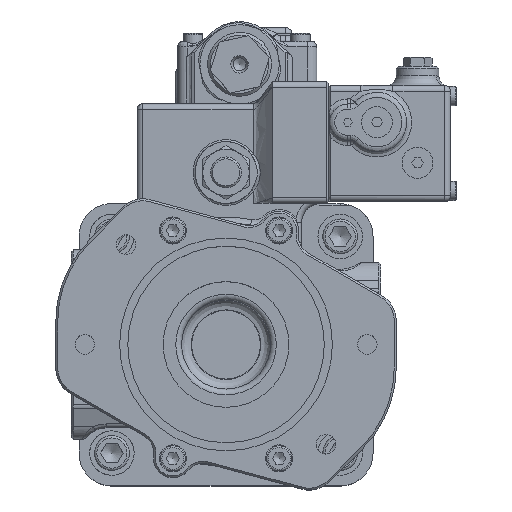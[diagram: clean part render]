
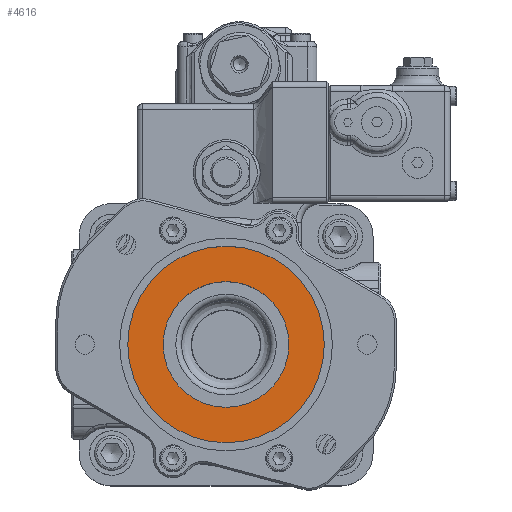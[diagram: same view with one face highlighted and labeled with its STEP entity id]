
A CAD part, top view. The second image highlights one B-rep face of the part: STEP entity #4616.
In plain terms, the highlighted planar face has unit normal (0, 0, 1).
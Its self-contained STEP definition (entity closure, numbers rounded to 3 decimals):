
#4574=CARTESIAN_POINT('',(50.8,0.,262.7));
#4575=VERTEX_POINT('',#4574);
#4576=CARTESIAN_POINT('',(0.,0.,262.7));
#4577=DIRECTION('',(0.0,0.0,1.0));
#4578=DIRECTION('',(-1.0,0.0,0.0));
#4579=AXIS2_PLACEMENT_3D('',#4576,#4577,#4578);
#4580=CIRCLE('',#4579,50.8);
#4581=EDGE_CURVE('',#4575,#4575,#4580,.T.);
#4597=CARTESIAN_POINT('',(0.,0.,262.7));
#4598=DIRECTION('',(0.0,0.0,-1.0));
#4599=DIRECTION('',(-1.0,0.0,0.0));
#4600=AXIS2_PLACEMENT_3D('',#4597,#4598,#4599);
#4601=PLANE('',#4600);
#4602=ORIENTED_EDGE('',*,*,#4581,.T.);
#4603=EDGE_LOOP('',(#4602));
#4604=FACE_OUTER_BOUND('',#4603,.T.);
#4605=CARTESIAN_POINT('',(32.5,0.,262.7));
#4606=VERTEX_POINT('',#4605);
#4607=CARTESIAN_POINT('',(0.,0.,262.7));
#4608=DIRECTION('',(0.0,0.0,1.0));
#4609=DIRECTION('',(1.0,0.0,0.0));
#4610=AXIS2_PLACEMENT_3D('',#4607,#4608,#4609);
#4611=CIRCLE('',#4610,32.5);
#4612=EDGE_CURVE('',#4606,#4606,#4611,.T.);
#4613=ORIENTED_EDGE('',*,*,#4612,.F.);
#4614=EDGE_LOOP('',(#4613));
#4615=FACE_BOUND('',#4614,.T.);
#4616=ADVANCED_FACE('',(#4604,#4615),#4601,.F.);
